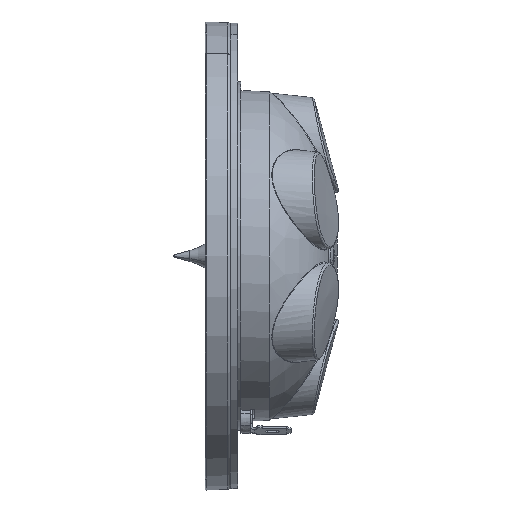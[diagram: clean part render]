
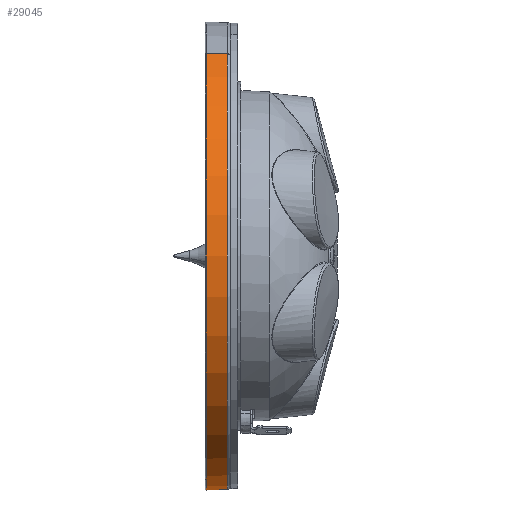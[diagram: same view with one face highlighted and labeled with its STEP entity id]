
A CAD part, left-side view. The second image highlights one B-rep face of the part: STEP entity #29045.
In plain terms, the highlighted conical face has half-angle 1.5 degrees and reference radius 51.633 mm.
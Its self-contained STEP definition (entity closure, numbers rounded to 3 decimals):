
#400 = VERTEX_POINT ( 'NONE', #1226 ) ;
#556 = CARTESIAN_POINT ( 'NONE',  ( 25.826, 19.23, -44.732 ) ) ;
#1226 = CARTESIAN_POINT ( 'NONE',  ( -25.826, 19.23, 44.732 ) ) ;
#1762 = VECTOR ( 'NONE', #26500, 1000. ) ;
#2921 = CARTESIAN_POINT ( 'NONE',  ( 0., 19.23, 0. ) ) ;
#3146 = CARTESIAN_POINT ( 'NONE',  ( 25.816, 18.5, -44.715 ) ) ;
#4088 = DIRECTION ( 'NONE',  ( 0., -1., 0. ) ) ;
#5625 = FACE_OUTER_BOUND ( 'NONE', #46766, .T. ) ;
#7905 = CARTESIAN_POINT ( 'NONE',  ( -25.816, 18.5, 44.715 ) ) ;
#8189 = VERTEX_POINT ( 'NONE', #556 ) ;
#9791 = ORIENTED_EDGE ( 'NONE', *, *, #45738, .F. ) ;
#11549 = CARTESIAN_POINT ( 'NONE',  ( -25.888, 23.943, 44.838 ) ) ;
#15763 = EDGE_CURVE ( 'NONE', #400, #23829, #49718, .T. ) ;
#18221 = DIRECTION ( 'NONE',  ( 0.5, 0., -0.866 ) ) ;
#20301 = ORIENTED_EDGE ( 'NONE', *, *, #48503, .T. ) ;
#20764 = CARTESIAN_POINT ( 'NONE',  ( 25.888, 23.943, -44.838 ) ) ;
#21429 = CARTESIAN_POINT ( 'NONE',  ( 0., 18.5, 0. ) ) ;
#22169 = DIRECTION ( 'NONE',  ( 0., 1., 0. ) ) ;
#23829 = VERTEX_POINT ( 'NONE', #11549 ) ;
#25494 = LINE ( 'NONE', #3146, #48421 ) ;
#26500 = DIRECTION ( 'NONE',  ( -0.013, 1., 0.023 ) ) ;
#28464 = AXIS2_PLACEMENT_3D ( 'NONE', #2921, #29292, #18221 ) ;
#29045 = ADVANCED_FACE ( 'NONE', ( #5625 ), #45748, .T. ) ;
#29292 = DIRECTION ( 'NONE',  ( 0., 1., 0. ) ) ;
#29861 = ORIENTED_EDGE ( 'NONE', *, *, #15763, .T. ) ;
#29923 = EDGE_CURVE ( 'NONE', #23829, #32374, #42618, .T. ) ;
#31131 = ORIENTED_EDGE ( 'NONE', *, *, #29923, .T. ) ;
#32374 = VERTEX_POINT ( 'NONE', #20764 ) ;
#34036 = DIRECTION ( 'NONE',  ( -0.5, 0., 0.866 ) ) ;
#35032 = DIRECTION ( 'NONE',  ( 0.5, 0., -0.866 ) ) ;
#38596 = CARTESIAN_POINT ( 'NONE',  ( 0., 23.943, 0. ) ) ;
#42543 = AXIS2_PLACEMENT_3D ( 'NONE', #21429, #22169, #34036 ) ;
#42618 = CIRCLE ( 'NONE', #49041, 51.775 ) ;
#43801 = CIRCLE ( 'NONE', #28464, 51.652 ) ;
#44939 = DIRECTION ( 'NONE',  ( 0.013, 1., -0.023 ) ) ;
#45738 = EDGE_CURVE ( 'NONE', #8189, #32374, #25494, .T. ) ;
#45748 = CONICAL_SURFACE ( 'NONE', #42543, 51.632, 0.026 ) ;
#46766 = EDGE_LOOP ( 'NONE', ( #9791, #20301, #29861, #31131 ) ) ;
#48421 = VECTOR ( 'NONE', #44939, 1000. ) ;
#48503 = EDGE_CURVE ( 'NONE', #8189, #400, #43801, .T. ) ;
#49041 = AXIS2_PLACEMENT_3D ( 'NONE', #38596, #4088, #35032 ) ;
#49718 = LINE ( 'NONE', #7905, #1762 ) ;
